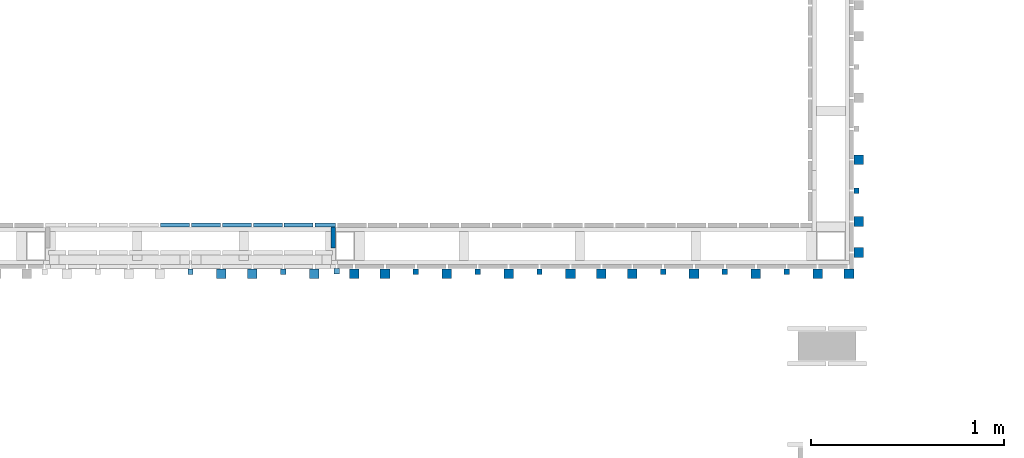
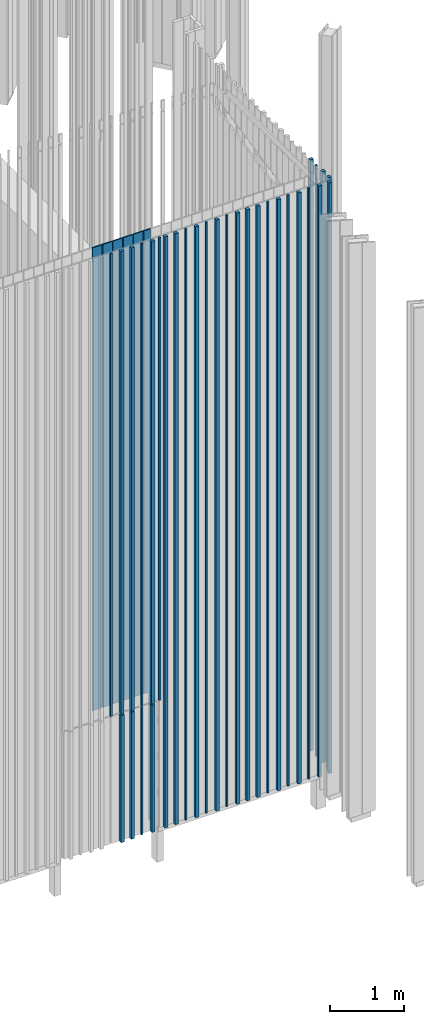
# One storey, part 16 of 390: 38 walls.
"""IFC2X3 building model written with IfcOpenShell, lengths in millimetres."""

from ifc_helpers import new_model, entity, si_unit, converted_unit, derived_unit, money_unit, direction, frame, origin_with_axes, origin_2d_with_axis, place, context, subcontext, project, spatial, rectangle, extrude, material, type_object, element, save


model = new_model("IFC2X3")

# Units and contexts
model_context = context("Model", 3, precision=1e-05, world=origin_with_axes(), true_north=direction((0.0, 1.0)))
body_context = subcontext(model_context, "Body", "Model", "MODEL_VIEW")
ifc_project = project(units=[si_unit("LENGTHUNIT", "METRE", prefix="MILLI"), si_unit("AREAUNIT", "SQUARE_METRE"), si_unit("VOLUMEUNIT", "CUBIC_METRE"), converted_unit("PLANEANGLEUNIT", "DEGREE", entity("IfcPlaneAngleMeasure", 0.0174532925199), si_unit("PLANEANGLEUNIT", "RADIAN"), dimensions=[0, 0, 0, 0, 0, 0, 0]), si_unit("SOLIDANGLEUNIT", "STERADIAN"), money_unit("EUR"), converted_unit("TIMEUNIT", "Year", entity("IfcTimeMeasure", 31556926.0), si_unit("TIMEUNIT", "SECOND"), dimensions=[0, 0, 1, 0, 0, 0, 0]), si_unit("MASSUNIT", "GRAM", prefix="KILO"), si_unit("THERMODYNAMICTEMPERATUREUNIT", "DEGREE_CELSIUS"), si_unit("LUMINOUSINTENSITYUNIT", "LUMEN"), si_unit("ENERGYUNIT", "JOULE", prefix="MEGA"), derived_unit("THERMALCONDUCTANCEUNIT", [(si_unit("POWERUNIT", "WATT"), 1), (si_unit("LENGTHUNIT", "METRE"), -1), (si_unit("THERMODYNAMICTEMPERATUREUNIT", "KELVIN"), -1)]), derived_unit("SPECIFICHEATCAPACITYUNIT", [(si_unit("ENERGYUNIT", "JOULE"), 1), (si_unit("MASSUNIT", "GRAM", prefix="KILO"), -1), (si_unit("THERMODYNAMICTEMPERATUREUNIT", "KELVIN"), -1)]), derived_unit("MASSDENSITYUNIT", [(si_unit("MASSUNIT", "GRAM", prefix="KILO"), 1), (si_unit("VOLUMEUNIT", "CUBIC_METRE"), -1)])], contexts=[model_context])

# Site, building, storey
site_placement = place(None, origin_with_axes())
site = spatial("IfcSite", under=ifc_project, at=site_placement, Name="Site", CompositionType="ELEMENT")
building_placement = place(site_placement, origin_with_axes())
building = spatial("IfcBuilding", under=site, at=building_placement, Name="Building", CompositionType="ELEMENT")
storey_placement = place(building_placement, origin_with_axes())
storey = spatial("IfcBuildingStorey", under=building, at=storey_placement, Name="1 korrus", CompositionType="ELEMENT", Elevation=0.0)

# Walls
ifc_material = material(Name="Site specified")
wall_type = type_object("IfcWallType", Name="Puitfassaadi ribistik", PredefinedType="NOTDEFINED")
wall_1_placement = place(storey_placement, frame((139417.000037, 42465.9999799, 100.000000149), z_axis=(0.0, 0.0, 1.0), x_axis=(-1.0, 0.0, 0.0)))
element("IfcWall", 1, at=wall_1_placement, inside=storey, type_object=wall_type, material=ifc_material, Name="Site specified", context=body_context, shape_type="SweptSolid", body=[
    extrude(rectangle(XDim=28.0, YDim=28.0, at=origin_2d_with_axis()), origin_with_axes(), (0.0, 0.0, 1.0), 9764.99999985),
])
for number, where, z_axis, x_axis, name in (
    (2, (137087.000037, 42467.0000099, 2220.00000001), (0.0, 0.0, 1.0), (-1.0, 0.0, 0.0), "Site specified"),
    (3, (136330.000037, 42465.9999649, 2220.00000001), (0.0, 0.0, 1.0), (-1.0, 0.0, 0.0), "Site specified"),
    (4, (136810.000037, 42465.9999649, 2220.00000001), (0.0, 0.0, 1.0), (-1.0, 0.0, 0.0), "Site specified"),
):
    element("IfcWall", number, at=place(storey_placement, frame(where, z_axis=z_axis, x_axis=x_axis)), inside=storey, type_object=wall_type, material=ifc_material, Name=name, context=body_context, shape_type="SweptSolid", body=[
        extrude(rectangle(XDim=28.0, YDim=28.0, at=origin_2d_with_axis()), origin_with_axes(), (0.0, 0.0, 1.0), 7644.99999999),
    ])
for number, where, z_axis, x_axis, name in (
    (5, (136490.000037, 42454.9999649, 2220.00000001), (0.0, 0.0, 1.0), (-1.0, 0.0, 0.0), "Site specified"),
    (6, (136650.000037, 42454.9999649, 2220.00000001), (0.0, 0.0, 1.0), (-1.0, 0.0, 0.0), "Site specified"),
    (7, (136970.000037, 42454.9999649, 2220.00000001), (0.0, 0.0, 1.0), (-1.0, 0.0, 0.0), "Site specified"),
):
    element("IfcWall", number, at=place(storey_placement, frame(where, z_axis=z_axis, x_axis=x_axis)), inside=storey, type_object=wall_type, material=ifc_material, Name=name, context=body_context, shape_type="SweptSolid", body=[
        extrude(rectangle(XDim=50.0, YDim=50.0, at=origin_2d_with_axis()), origin_with_axes(), (0.0, 0.0, 1.0), 7644.99999999),
    ])
wall_2_placement = place(storey_placement, frame((136970.000037, 42453.9999799, 100.000000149), z_axis=(0.0, 0.0, 1.0), x_axis=(-1.0, 0.0, 0.0)))
element("IfcWall", 8, at=wall_2_placement, inside=storey, type_object=wall_type, material=ifc_material, Name="Site specified", context=body_context, shape_type="SweptSolid", body=[
    extrude(rectangle(XDim=50.0, YDim=50.0, at=origin_2d_with_axis()), frame((0.0, 0.0, 0.0), z_axis=(0.0, 0.0, -1.0), x_axis=(-1.0, 0.0, 0.0)), (0.0, 0.0, -1.0), 2100.0),
])
wall_3_placement = place(storey_placement, frame((136810.000037, 42464.9999799, 100.000000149), z_axis=(0.0, 0.0, 1.0), x_axis=(-1.0, 0.0, 0.0)))
element("IfcWall", 9, at=wall_3_placement, inside=storey, type_object=wall_type, material=ifc_material, Name="Site specified", context=body_context, shape_type="SweptSolid", body=[
    extrude(rectangle(XDim=28.0, YDim=28.0, at=origin_2d_with_axis()), frame((0.0, 0.0, 0.0), z_axis=(0.0, 0.0, -1.0), x_axis=(-1.0, 0.0, 0.0)), (0.0, 0.0, -1.0), 2100.0),
])
for number, where, z_axis, x_axis, name in (
    (10, (136490.000037, 42453.9999799, 100.000000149), (0.0, 0.0, 1.0), (-1.0, 0.0, 0.0), "Site specified"),
    (11, (136650.000037, 42453.9999799, 100.000000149), (0.0, 0.0, 1.0), (-1.0, 0.0, 0.0), "Site specified"),
):
    element("IfcWall", number, at=place(storey_placement, frame(where, z_axis=z_axis, x_axis=x_axis)), inside=storey, type_object=wall_type, material=ifc_material, Name=name, context=body_context, shape_type="SweptSolid", body=[
        extrude(rectangle(XDim=50.0, YDim=50.0, at=origin_2d_with_axis()), frame((0.0, 0.0, 0.0), z_axis=(0.0, 0.0, -1.0), x_axis=(-1.0, 0.0, 0.0)), (0.0, 0.0, -1.0), 2100.0),
    ])
for number, where, z_axis, x_axis, name in (
    (12, (139577.000037, 42454.99993, 100.000000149), (0.0, 0.0, 1.0), (-1.0, 0.0, 0.0), "Site specified"),
    (13, (138617.000037, 42454.9999724, 100.000000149), (0.0, 0.0, 1.0), (-1.0, 0.0, 0.0), "Site specified"),
    (14, (138457.000037, 42454.9999724, 100.000000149), (0.0, 0.0, 1.0), (-1.0, 0.0, 0.0), "Site specified"),
):
    element("IfcWall", number, at=place(storey_placement, frame(where, z_axis=z_axis, x_axis=x_axis)), inside=storey, type_object=wall_type, material=ifc_material, Name=name, context=body_context, shape_type="SweptSolid", body=[
        extrude(rectangle(XDim=50.0, YDim=50.0, at=origin_2d_with_axis()), origin_with_axes(), (0.0, 0.0, 1.0), 9764.99999985),
    ])
wall_4_placement = place(storey_placement, frame((137817.000037, 42465.9999649, 100.000000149), z_axis=(0.0, 0.0, 1.0), x_axis=(-1.0, 0.0, 0.0)))
element("IfcWall", 15, at=wall_4_placement, inside=storey, type_object=wall_type, material=ifc_material, Name="Site specified", context=body_context, shape_type="SweptSolid", body=[
    extrude(rectangle(XDim=28.0, YDim=28.0, at=origin_2d_with_axis()), origin_with_axes(), (0.0, 0.0, 1.0), 9764.99999985),
])
wall_5_placement = place(storey_placement, frame((139257.000037, 42454.9999225, 100.000000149), z_axis=(0.0, 0.0, 1.0), x_axis=(-1.0, 0.0, 0.0)))
element("IfcWall", 16, at=wall_5_placement, inside=storey, type_object=wall_type, material=ifc_material, Name="Site specified", context=body_context, shape_type="SweptSolid", body=[
    extrude(rectangle(XDim=50.0, YDim=50.0, at=origin_2d_with_axis()), origin_with_axes(), (0.0, 0.0, 1.0), 9764.99999985),
])
wall_6_placement = place(storey_placement, frame((138777.000037, 42465.9999724, 100.000000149), z_axis=(0.0, 0.0, 1.0), x_axis=(-1.0, 0.0, 0.0)))
element("IfcWall", 17, at=wall_6_placement, inside=storey, type_object=wall_type, material=ifc_material, Name="Site specified", context=body_context, shape_type="SweptSolid", body=[
    extrude(rectangle(XDim=28.0, YDim=28.0, at=origin_2d_with_axis()), origin_with_axes(), (0.0, 0.0, 1.0), 9764.99999985),
])
for number, where, z_axis, x_axis, name in (
    (18, (138937.000037, 42454.9999724, 100.000000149), (0.0, 0.0, 1.0), (-1.0, 0.0, 0.0), "Site specified"),
    (19, (139788.999999, 43045.0000472, 100.000000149), (0.0, 0.0, 1.0), (0.0, -1.0, 0.0), "Site specified"),
):
    element("IfcWall", number, at=place(storey_placement, frame(where, z_axis=z_axis, x_axis=x_axis)), inside=storey, type_object=wall_type, material=ifc_material, Name=name, context=body_context, shape_type="SweptSolid", body=[
        extrude(rectangle(XDim=50.0, YDim=50.0, at=origin_2d_with_axis()), origin_with_axes(), (0.0, 0.0, 1.0), 9764.99999985),
    ])
wall_7_placement = place(storey_placement, frame((137497.000037, 42465.9999649, 100.000000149), z_axis=(0.0, 0.0, 1.0), x_axis=(-1.0, 0.0, 0.0)))
element("IfcWall", 20, at=wall_7_placement, inside=storey, type_object=wall_type, material=ifc_material, Name="Site specified", context=body_context, shape_type="SweptSolid", body=[
    extrude(rectangle(XDim=28.0, YDim=28.0, at=origin_2d_with_axis()), origin_with_axes(), (0.0, 0.0, 1.0), 9764.99999985),
])
wall_8_placement = place(storey_placement, frame((139739.000037, 42454.99993, 100.000000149), z_axis=(0.0, 0.0, 1.0), x_axis=(-1.0, 0.0, 0.0)))
element("IfcWall", 21, at=wall_8_placement, inside=storey, type_object=wall_type, material=ifc_material, Name="Site specified", context=body_context, shape_type="SweptSolid", body=[
    extrude(rectangle(XDim=50.0, YDim=50.0, at=origin_2d_with_axis()), origin_with_axes(), (0.0, 0.0, 1.0), 9764.99999985),
])
wall_9_placement = place(storey_placement, frame((138137.000037, 42465.9999724, 100.000000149), z_axis=(0.0, 0.0, 1.0), x_axis=(-1.0, 0.0, 0.0)))
element("IfcWall", 22, at=wall_9_placement, inside=storey, type_object=wall_type, material=ifc_material, Name="Site specified", context=body_context, shape_type="SweptSolid", body=[
    extrude(rectangle(XDim=28.0, YDim=28.0, at=origin_2d_with_axis()), origin_with_axes(), (0.0, 0.0, 1.0), 9764.99999985),
])
wall_10_placement = place(storey_placement, frame((139789.000037, 42725.0000099, 100.000000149), z_axis=(0.0, 0.0, 1.0), x_axis=(0.0, -1.0, 0.0)))
element("IfcWall", 23, at=wall_10_placement, inside=storey, type_object=wall_type, material=ifc_material, Name="Site specified", context=body_context, shape_type="SweptSolid", body=[
    extrude(rectangle(XDim=50.0, YDim=50.0, at=origin_2d_with_axis()), origin_with_axes(), (0.0, 0.0, 1.0), 9764.99999985),
])
for number, where, z_axis, x_axis, name in (
    (24, (139097.000037, 42465.9999724, 100.000000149), (0.0, 0.0, 1.0), (-1.0, 0.0, 0.0), "Site specified"),
    (25, (139778.000037, 42885.0000099, 100.000000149), (0.0, 0.0, 1.0), (0.0, -1.0, 0.0), "Site specified"),
):
    element("IfcWall", number, at=place(storey_placement, frame(where, z_axis=z_axis, x_axis=x_axis)), inside=storey, type_object=wall_type, material=ifc_material, Name=name, context=body_context, shape_type="SweptSolid", body=[
        extrude(rectangle(XDim=28.0, YDim=28.0, at=origin_2d_with_axis()), origin_with_axes(), (0.0, 0.0, 1.0), 9764.99999985),
    ])
wall_11_placement = place(storey_placement, frame((139789.000037, 42565.0000099, 100.000000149), z_axis=(0.0, 0.0, 1.0), x_axis=(0.0, -1.0, 0.0)))
element("IfcWall", 26, at=wall_11_placement, inside=storey, type_object=wall_type, material=ifc_material, Name="Site specified", context=body_context, shape_type="SweptSolid", body=[
    extrude(rectangle(XDim=50.0, YDim=50.0, at=origin_2d_with_axis()), origin_with_axes(), (0.0, 0.0, 1.0), 9764.99999985),
])
wall_12_placement = place(storey_placement, frame((136730.000037, 42707.0092595, 2220.00000001), z_axis=(0.0, 0.0, 1.0), x_axis=(-1.0, 0.0, 0.0)))
element("IfcWall", 27, at=wall_12_placement, inside=storey, type_object=wall_type, material=ifc_material, Name="Site specified", context=body_context, shape_type="SweptSolid", body=[
    extrude(rectangle(XDim=150.0, YDim=22.0000000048, at=origin_2d_with_axis()), origin_with_axes(), (0.0, 0.0, 1.0), 7644.99999999),
])
wall_13_placement = place(storey_placement, frame((137069.000037, 42652.0000102, 100.000000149), z_axis=(0.0, 0.0, 1.0), x_axis=(0.0, -1.0, 0.0)))
element("IfcWall", 28, at=wall_13_placement, inside=storey, type_object=wall_type, material=ifc_material, Name="Site specified", context=body_context, shape_type="SweptSolid", body=[
    extrude(rectangle(XDim=130.0, YDim=22.0000000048, at=origin_2d_with_axis()), origin_with_axes(), (0.0, 0.0, 1.0), 2119.99999987),
])
wall_14_placement = place(storey_placement, frame((137027.500037, 42707.009267, 2220.00000001), z_axis=(0.0, 0.0, 1.0), x_axis=(-1.0, 0.0, 0.0)))
element("IfcWall", 29, at=wall_14_placement, inside=storey, type_object=wall_type, material=ifc_material, Name="Site specified", context=body_context, shape_type="SweptSolid", body=[
    extrude(rectangle(XDim=104.999999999, YDim=22.0000000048, at=origin_2d_with_axis()), origin_with_axes(), (0.0, 0.0, 1.0), 7644.99999999),
])
for number, where, z_axis, x_axis, name in (
    (30, (136410.000037, 42707.0092595, 2220.00000001), (0.0, 0.0, 1.0), (-1.0, 0.0, 0.0), "Site specified"),
    (31, (136890.000037, 42707.0092595, 2220.00000001), (0.0, 0.0, 1.0), (-1.0, 0.0, 0.0), "Site specified"),
    (32, (136570.000037, 42707.0092595, 2220.00000001), (0.0, 0.0, 1.0), (-1.0, 0.0, 0.0), "Site specified"),
    (33, (136250.000037, 42707.0092595, 2220.00000001), (0.0, 0.0, 1.0), (-1.0, 0.0, 0.0), "Site specified"),
):
    element("IfcWall", number, at=place(storey_placement, frame(where, z_axis=z_axis, x_axis=x_axis)), inside=storey, type_object=wall_type, material=ifc_material, Name=name, context=body_context, shape_type="SweptSolid", body=[
        extrude(rectangle(XDim=150.0, YDim=22.0000000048, at=origin_2d_with_axis()), origin_with_axes(), (0.0, 0.0, 1.0), 7644.99999999),
    ])
for number, where, z_axis, x_axis, name in (
    (34, (137177.000037, 42454.9999649, 100.000000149), (0.0, 0.0, 1.0), (-1.0, 0.0, 0.0), "Site specified"),
    (35, (137337.000037, 42454.9999649, 100.000000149), (0.0, 0.0, 1.0), (-1.0, 0.0, 0.0), "Site specified"),
    (36, (137657.000037, 42454.9999649, 100.000000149), (0.0, 0.0, 1.0), (-1.0, 0.0, 0.0), "Site specified"),
    (37, (137977.000037, 42454.999915, 100.000000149), (0.0, 0.0, 1.0), (-1.0, 0.0, 0.0), "Site specified"),
    (38, (138297.000037, 42454.9999225, 100.000000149), (0.0, 0.0, 1.0), (-1.0, 0.0, 0.0), "Site specified"),
):
    element("IfcWall", number, at=place(storey_placement, frame(where, z_axis=z_axis, x_axis=x_axis)), inside=storey, type_object=wall_type, material=ifc_material, Name=name, context=body_context, shape_type="SweptSolid", body=[
        extrude(rectangle(XDim=50.0, YDim=50.0, at=origin_2d_with_axis()), origin_with_axes(), (0.0, 0.0, 1.0), 9764.99999985),
    ])

save(model, "model.ifc")
